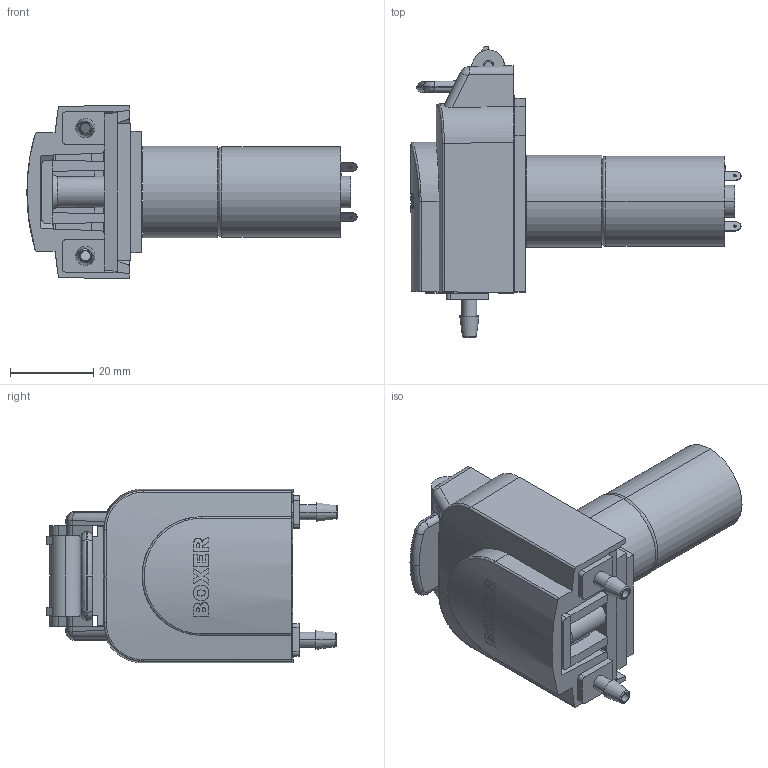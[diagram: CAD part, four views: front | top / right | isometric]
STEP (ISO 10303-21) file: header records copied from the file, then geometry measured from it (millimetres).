
FILE_DESCRIPTION (( 'STEP AP203' ), '1' );
FILE_NAME ('9QQ DC.STEP', '2021-05-23T13:06:16', ( '' ), ( '' ), 'SwSTEP 2.0', 'SolidWorks 2020', '' );
FILE_SCHEMA (( 'CONFIG_CONTROL_DESIGN' ));
Length unit declared in the file: millimetre
Products named in the file (1): 9QQ DC
Bounding box: 79.1 x 69.6 x 41.6 mm (x, y, z)
Surface area: 19937.7 mm2 (no closed solid volume)
Topology: 0 solids, 14 shells, 532 faces, 1805 edges, 1236 vertices
Faces by surface type: plane 236, cylinder 180, bspline 95, cone 21
Entity records: 23019 total; most frequent: CARTESIAN_POINT 8234, ORIENTED_EDGE 2925, DIRECTION 2915, EDGE_CURVE 1786, VERTEX_POINT 1236, AXIS2_PLACEMENT_3D 980, LINE 955, VECTOR 955
